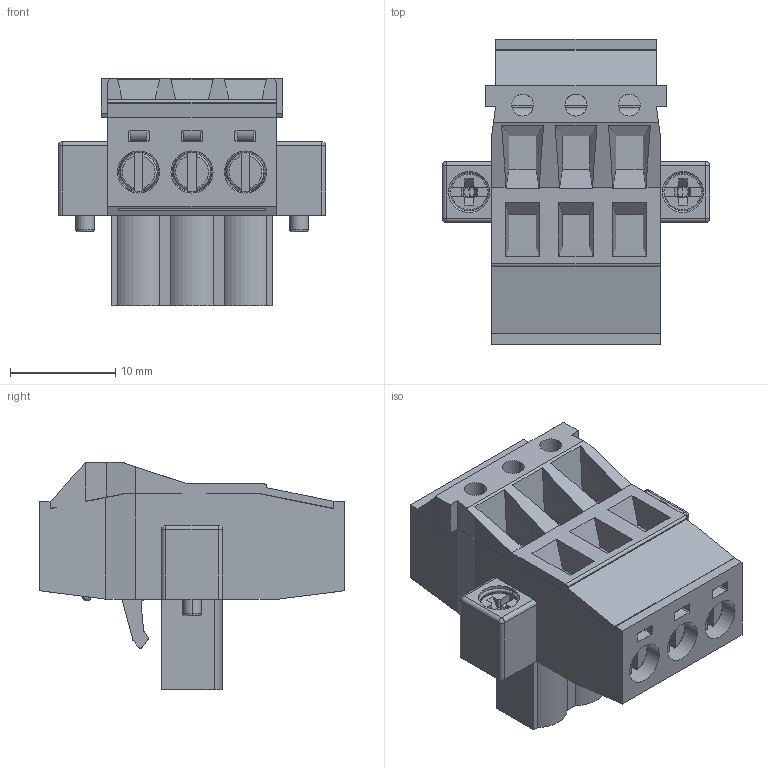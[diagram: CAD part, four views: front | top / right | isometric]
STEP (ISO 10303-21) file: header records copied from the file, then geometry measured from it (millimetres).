
FILE_DESCRIPTION((''),'2;1');
FILE_NAME('3PIN_ASM','2019-05-28T',('zhenbing.lai'),(''),'CREO PARAMETRIC BY PTC INC, 2016260','CREO PARAMETRIC BY PTC INC, 2016260','');
FILE_SCHEMA(('CONFIG_CONTROL_DESIGN'));
Length unit declared in the file: millimetre
Products named in the file (1): 3PIN_ASM
Bounding box: 25.4 x 29 x 21.6 mm (x, y, z)
Volume: 5406 mm3; surface area: 4419.8 mm2
Topology: 2 solids, 8 shells, 778 faces, 2254 edges, 1508 vertices
Faces by surface type: plane 440, cylinder 208, cone 64, torus 40, bspline 18, sphere 8
Entity records: 30838 total; most frequent: CARTESIAN_POINT 10222, ORIENTED_EDGE 4476, DIRECTION 4148, EDGE_CURVE 2238, VERTEX_POINT 1508, AXIS2_PLACEMENT_3D 1440, VECTOR 1268, LINE 1268
